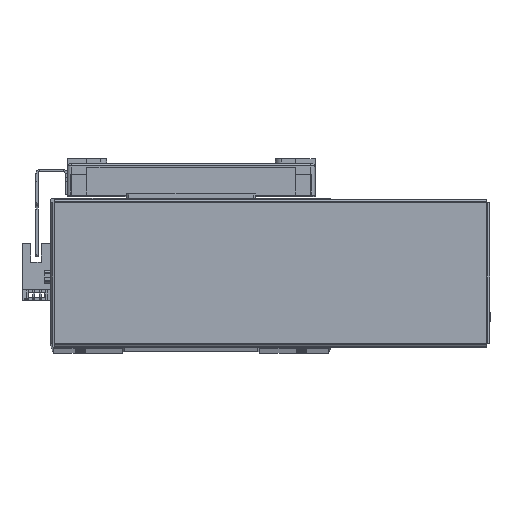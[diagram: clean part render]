
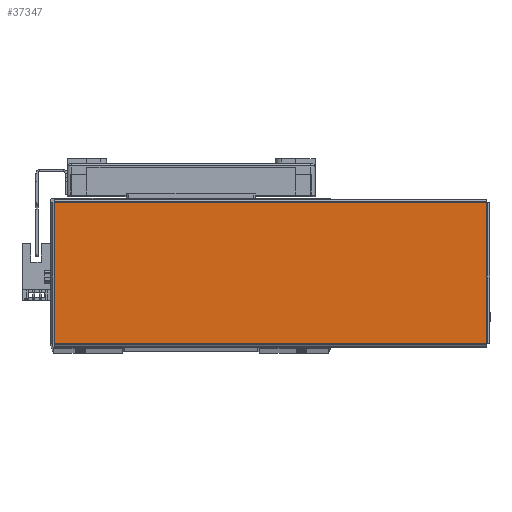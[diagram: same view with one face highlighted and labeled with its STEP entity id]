
A CAD part, top view. The second image highlights one B-rep face of the part: STEP entity #37347.
In plain terms, the highlighted planar face has unit normal (0, 0, 1) as drawn and (0, -1, 0) by its records, which use the part's own axes.
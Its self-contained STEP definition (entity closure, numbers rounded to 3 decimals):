
#10348 = EDGE_LOOP ( 'NONE', ( #29887, #29838, #29935, #29836 ) ) ;
#14355 = VERTEX_POINT ( 'NONE', #20878 ) ;
#14403 = VERTEX_POINT ( 'NONE', #20925 ) ;
#14445 = VERTEX_POINT ( 'NONE', #20973 ) ;
#14509 = VERTEX_POINT ( 'NONE', #21068 ) ;
#20878 = CARTESIAN_POINT ( 'NONE',  ( 103.763, -1., 33.763 ) ) ;
#20925 = CARTESIAN_POINT ( 'NONE',  ( -103.763, -1., -33.763 ) ) ;
#20973 = CARTESIAN_POINT ( 'NONE',  ( 103.763, -1., -33.763 ) ) ;
#21068 = CARTESIAN_POINT ( 'NONE',  ( -103.763, -1., 33.763 ) ) ;
#26284 = EDGE_CURVE ( 'NONE', #14355, #14509, #49474, .T. ) ;
#26285 = EDGE_CURVE ( 'NONE', #14403, #14445, #49453, .T. ) ;
#26286 = EDGE_CURVE ( 'NONE', #14445, #14355, #49459, .T. ) ;
#26320 = EDGE_CURVE ( 'NONE', #14509, #14403, #49564, .T. ) ;
#29836 = ORIENTED_EDGE ( 'NONE', *, *, #26286, .T. ) ;
#29838 = ORIENTED_EDGE ( 'NONE', *, *, #26320, .T. ) ;
#29887 = ORIENTED_EDGE ( 'NONE', *, *, #26284, .T. ) ;
#29935 = ORIENTED_EDGE ( 'NONE', *, *, #26285, .T. ) ;
#37347 = ADVANCED_FACE ( 'NONE', ( #61682 ), #62920, .F. ) ;
#49453 = LINE ( 'NONE', #50861, #49468 ) ;
#49459 = LINE ( 'NONE', #50910, #49460 ) ;
#49460 = VECTOR ( 'NONE', #50900, 1000. ) ;
#49468 = VECTOR ( 'NONE', #50897, 1000. ) ;
#49474 = LINE ( 'NONE', #50896, #49499 ) ;
#49499 = VECTOR ( 'NONE', #50905, 1000. ) ;
#49537 = VECTOR ( 'NONE', #50966, 1000. ) ;
#49564 = LINE ( 'NONE', #50965, #49537 ) ;
#50861 = CARTESIAN_POINT ( 'NONE',  ( -103.793, -1., -33.763 ) ) ;
#50896 = CARTESIAN_POINT ( 'NONE',  ( 103.793, -1., 33.763 ) ) ;
#50897 = DIRECTION ( 'NONE',  ( 1., 0., 0. ) ) ;
#50900 = DIRECTION ( 'NONE',  ( 0., 0., 1. ) ) ;
#50905 = DIRECTION ( 'NONE',  ( -1., 0., 0. ) ) ;
#50910 = CARTESIAN_POINT ( 'NONE',  ( 103.763, -1., -33.793 ) ) ;
#50965 = CARTESIAN_POINT ( 'NONE',  ( -103.763, -1., 33.793 ) ) ;
#50966 = DIRECTION ( 'NONE',  ( 0., 0., -1. ) ) ;
#53054 = AXIS2_PLACEMENT_3D ( 'NONE', #62925, #62927, #62933 ) ;
#61682 = FACE_OUTER_BOUND ( 'NONE', #10348, .T. ) ;
#62920 = PLANE ( 'NONE',  #53054 ) ;
#62925 = CARTESIAN_POINT ( 'NONE',  ( 0., -1., 0. ) ) ;
#62927 = DIRECTION ( 'NONE',  ( 0., 1., 0. ) ) ;
#62933 = DIRECTION ( 'NONE',  ( 0., 0., 1. ) ) ;
